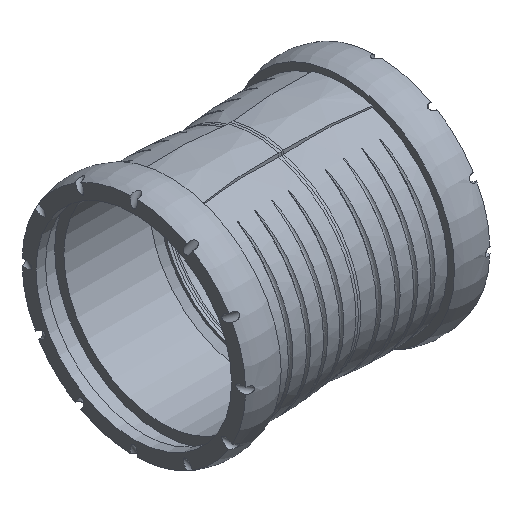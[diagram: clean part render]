
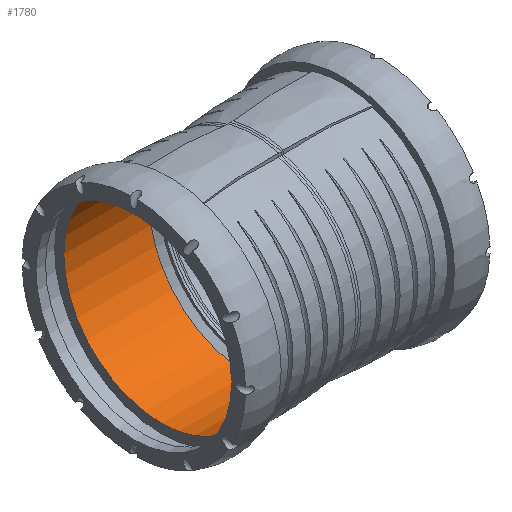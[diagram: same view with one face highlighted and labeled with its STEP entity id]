
A CAD part, isometric view. The second image highlights one B-rep face of the part: STEP entity #1780.
In plain terms, the highlighted cylindrical face has radius 55.5 mm (diameter 111 mm), a full revolution.
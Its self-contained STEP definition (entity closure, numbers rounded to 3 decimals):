
#356=FACE_OUTER_BOUND('',#584,.T.);
#394=CYLINDRICAL_SURFACE('',#1929,55.5);
#439=FACE_BOUND('',#585,.T.);
#584=EDGE_LOOP('',(#1531));
#585=EDGE_LOOP('',(#1532));
#659=CIRCLE('',#1928,55.5);
#660=CIRCLE('',#1930,55.5);
#831=VERTEX_POINT('',#7762);
#832=VERTEX_POINT('',#7765);
#1071=EDGE_CURVE('',#831,#831,#659,.T.);
#1072=EDGE_CURVE('',#832,#832,#660,.T.);
#1531=ORIENTED_EDGE('',*,*,#1071,.T.);
#1532=ORIENTED_EDGE('',*,*,#1072,.F.);
#1780=ADVANCED_FACE('',(#356,#439),#394,.F.);
#1928=AXIS2_PLACEMENT_3D('',#7763,#2230,#2231);
#1929=AXIS2_PLACEMENT_3D('',#7764,#2232,#2233);
#1930=AXIS2_PLACEMENT_3D('',#7766,#2234,#2235);
#2230=DIRECTION('center_axis',(-1.,0.,0.));
#2231=DIRECTION('ref_axis',(0.,0.,
-1.));
#2232=DIRECTION('center_axis',(-1.,0.,0.));
#2233=DIRECTION('ref_axis',(0.,-1.,0.));
#2234=DIRECTION('center_axis',(-1.,0.,0.));
#2235=DIRECTION('ref_axis',(0.,0.,
-1.));
#7762=CARTESIAN_POINT('',(-53.8,-55.5,0.));
#7763=CARTESIAN_POINT('Origin',(-53.8,0.,
0.));
#7764=CARTESIAN_POINT('Origin',(-29.4,0.,
0.));
#7765=CARTESIAN_POINT('',(-5.,-55.5,0.));
#7766=CARTESIAN_POINT('Origin',(-5.,0.,
0.));
